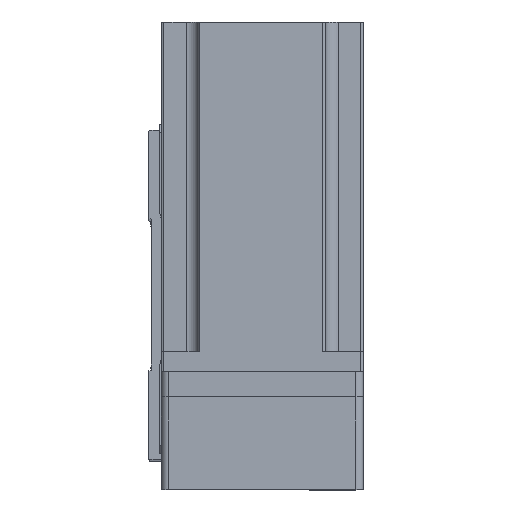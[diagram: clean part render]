
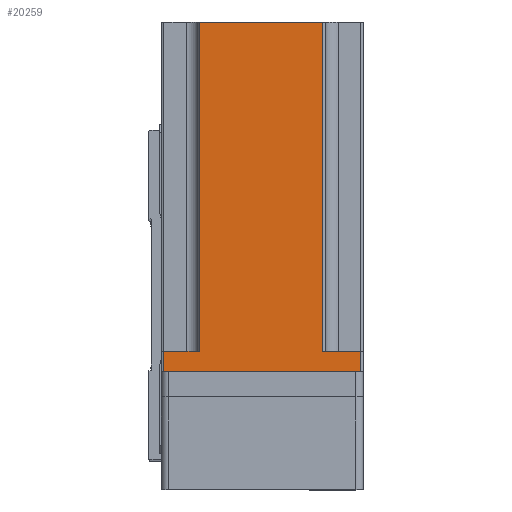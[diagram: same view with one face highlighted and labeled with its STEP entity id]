
A CAD part, top view. The second image highlights one B-rep face of the part: STEP entity #20259.
In plain terms, the highlighted planar face has unit normal (0, 0, 1) as drawn and (-1, 0, 0) by its records, which use the part's own axes.
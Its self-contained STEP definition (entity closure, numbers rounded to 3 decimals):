
#244 = DIRECTION ( 'NONE',  ( 0., -1., 0. ) ) ;
#1016 = EDGE_CURVE ( 'NONE', #9603, #21652, #41272, .T. ) ;
#1454 = VERTEX_POINT ( 'NONE', #34741 ) ;
#2365 = EDGE_CURVE ( 'NONE', #42838, #21652, #35322, .T. ) ;
#2928 = CARTESIAN_POINT ( 'NONE',  ( -40., -24., 138.3 ) ) ;
#4572 = EDGE_CURVE ( 'NONE', #10398, #1454, #40393, .T. ) ;
#4761 = ORIENTED_EDGE ( 'NONE', *, *, #35731, .T. ) ;
#4959 = CARTESIAN_POINT ( 'NONE',  ( -40., -39., 138.3 ) ) ;
#5423 = ORIENTED_EDGE ( 'NONE', *, *, #9512, .T. ) ;
#6589 = CARTESIAN_POINT ( 'NONE',  ( -40., -24., 8. ) ) ;
#6866 = LINE ( 'NONE', #11155, #23812 ) ;
#7096 = CARTESIAN_POINT ( 'NONE',  ( -40., -40., 138.3 ) ) ;
#8088 = CARTESIAN_POINT ( 'NONE',  ( -40., 39., 0. ) ) ;
#8360 = DIRECTION ( 'NONE',  ( 0., 0., 1. ) ) ;
#9512 = EDGE_CURVE ( 'NONE', #10275, #9603, #6866, .T. ) ;
#9603 = VERTEX_POINT ( 'NONE', #41925 ) ;
#9711 = CARTESIAN_POINT ( 'NONE',  ( -40., 25., 138.3 ) ) ;
#10275 = VERTEX_POINT ( 'NONE', #8088 ) ;
#10398 = VERTEX_POINT ( 'NONE', #22428 ) ;
#10536 = DIRECTION ( 'NONE',  ( 0., 0., -1. ) ) ;
#11155 = CARTESIAN_POINT ( 'NONE',  ( -40., -40., 0. ) ) ;
#12700 = ORIENTED_EDGE ( 'NONE', *, *, #16049, .T. ) ;
#14170 = ORIENTED_EDGE ( 'NONE', *, *, #4572, .T. ) ;
#14541 = DIRECTION ( 'NONE',  ( 0., -1., 0. ) ) ;
#16049 = EDGE_CURVE ( 'NONE', #42838, #23006, #43058, .T. ) ;
#16263 = CARTESIAN_POINT ( 'NONE',  ( -40., 39., 138.3 ) ) ;
#16502 = VECTOR ( 'NONE', #29716, 1000. ) ;
#16844 = LINE ( 'NONE', #27987, #36909 ) ;
#18875 = DIRECTION ( 'NONE',  ( 0., -1., 0. ) ) ;
#20259 = ADVANCED_FACE ( 'NONE', ( #20655 ), #37357, .F. ) ;
#20655 = FACE_OUTER_BOUND ( 'NONE', #22189, .T. ) ;
#21652 = VERTEX_POINT ( 'NONE', #31476 ) ;
#22189 = EDGE_LOOP ( 'NONE', ( #22358, #12700, #26659, #33253, #14170, #4761, #5423, #39522 ) ) ;
#22358 = ORIENTED_EDGE ( 'NONE', *, *, #2365, .F. ) ;
#22428 = CARTESIAN_POINT ( 'NONE',  ( -40., 25., 8. ) ) ;
#23006 = VERTEX_POINT ( 'NONE', #38988 ) ;
#23812 = VECTOR ( 'NONE', #14541, 1000. ) ;
#26659 = ORIENTED_EDGE ( 'NONE', *, *, #28393, .F. ) ;
#27987 = CARTESIAN_POINT ( 'NONE',  ( -40., 25., 8. ) ) ;
#28393 = EDGE_CURVE ( 'NONE', #32199, #23006, #29181, .T. ) ;
#29181 = LINE ( 'NONE', #35695, #37092 ) ;
#29716 = DIRECTION ( 'NONE',  ( 0., 0., -1. ) ) ;
#30748 = DIRECTION ( 'NONE',  ( 1., 0., 0. ) ) ;
#31252 = VECTOR ( 'NONE', #8360, 1000. ) ;
#31415 = VECTOR ( 'NONE', #33149, 1000. ) ;
#31476 = CARTESIAN_POINT ( 'NONE',  ( -40., -39., 8. ) ) ;
#32199 = VERTEX_POINT ( 'NONE', #9711 ) ;
#33149 = DIRECTION ( 'NONE',  ( 0., 1., 0. ) ) ;
#33253 = ORIENTED_EDGE ( 'NONE', *, *, #37058, .F. ) ;
#34279 = VECTOR ( 'NONE', #244, 1000. ) ;
#34741 = CARTESIAN_POINT ( 'NONE',  ( -40., 39., 8. ) ) ;
#35172 = VECTOR ( 'NONE', #36599, 1000. ) ;
#35322 = LINE ( 'NONE', #40712, #34279 ) ;
#35695 = CARTESIAN_POINT ( 'NONE',  ( -40., -40., 138.3 ) ) ;
#35731 = EDGE_CURVE ( 'NONE', #1454, #10275, #43407, .T. ) ;
#36599 = DIRECTION ( 'NONE',  ( 0., 0., 1. ) ) ;
#36642 = AXIS2_PLACEMENT_3D ( 'NONE', #7096, #30748, #10536 ) ;
#36909 = VECTOR ( 'NONE', #41506, 1000. ) ;
#37058 = EDGE_CURVE ( 'NONE', #10398, #32199, #16844, .T. ) ;
#37092 = VECTOR ( 'NONE', #18875, 1000. ) ;
#37357 = PLANE ( 'NONE',  #36642 ) ;
#38988 = CARTESIAN_POINT ( 'NONE',  ( -40., -24., 138.3 ) ) ;
#39522 = ORIENTED_EDGE ( 'NONE', *, *, #1016, .T. ) ;
#39797 = CARTESIAN_POINT ( 'NONE',  ( -40., 40., 8. ) ) ;
#40393 = LINE ( 'NONE', #39797, #31415 ) ;
#40712 = CARTESIAN_POINT ( 'NONE',  ( -40., -40., 8. ) ) ;
#41272 = LINE ( 'NONE', #4959, #31252 ) ;
#41506 = DIRECTION ( 'NONE',  ( 0., 0., 1. ) ) ;
#41925 = CARTESIAN_POINT ( 'NONE',  ( -40., -39., 0. ) ) ;
#42838 = VERTEX_POINT ( 'NONE', #6589 ) ;
#43058 = LINE ( 'NONE', #2928, #35172 ) ;
#43407 = LINE ( 'NONE', #16263, #16502 ) ;
